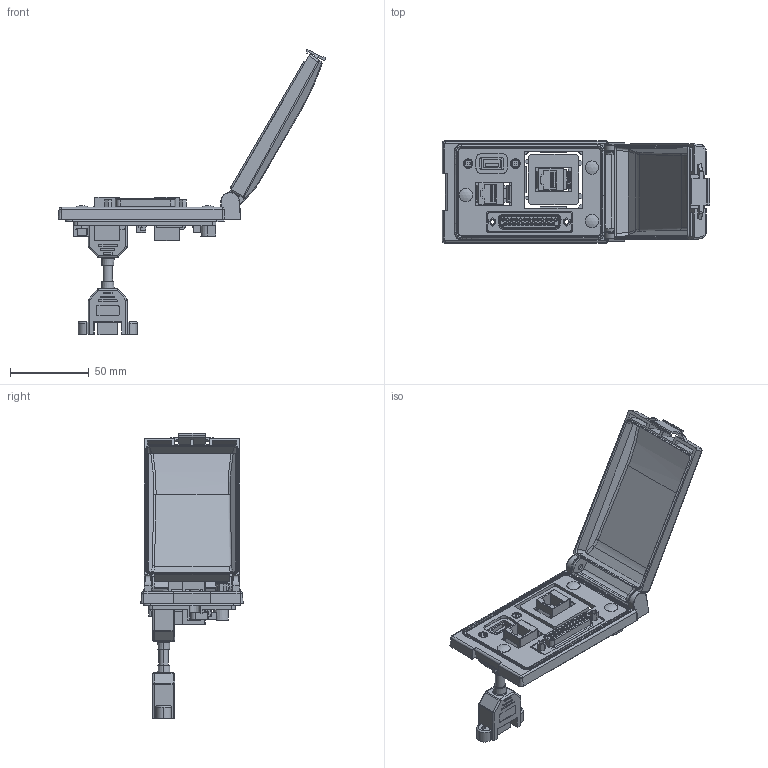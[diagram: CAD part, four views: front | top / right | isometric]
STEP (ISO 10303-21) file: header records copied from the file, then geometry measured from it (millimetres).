
FILE_DESCRIPTION (( 'STEP AP203' ), '1' );
FILE_NAME ('9045225.STEP', '2020-11-24T08:53:39', ( '' ), ( '' ), 'SwSTEP 2.0', 'SolidWorks 2016', '' );
FILE_SCHEMA (( 'CONFIG_CONTROL_DESIGN' ));
Length unit declared in the file: millimetre
Products named in the file (1): 9045225
Bounding box: 169.88 x 65 x 181.03 mm (x, y, z)
Volume: 81882.2 mm3; surface area: 70580.4 mm2
Topology: 7 solids, 9 shells, 2742 faces, 7226 edges, 4565 vertices
Faces by surface type: plane 1437, cylinder 834, bspline 202, cone 151, torus 66, sphere 52
Entity records: 97408 total; most frequent: CARTESIAN_POINT 32610, ORIENTED_EDGE 14302, DIRECTION 12211, EDGE_CURVE 7151, VERTEX_POINT 4558, AXIS2_PLACEMENT_3D 4087, VECTOR 4037, LINE 4037
